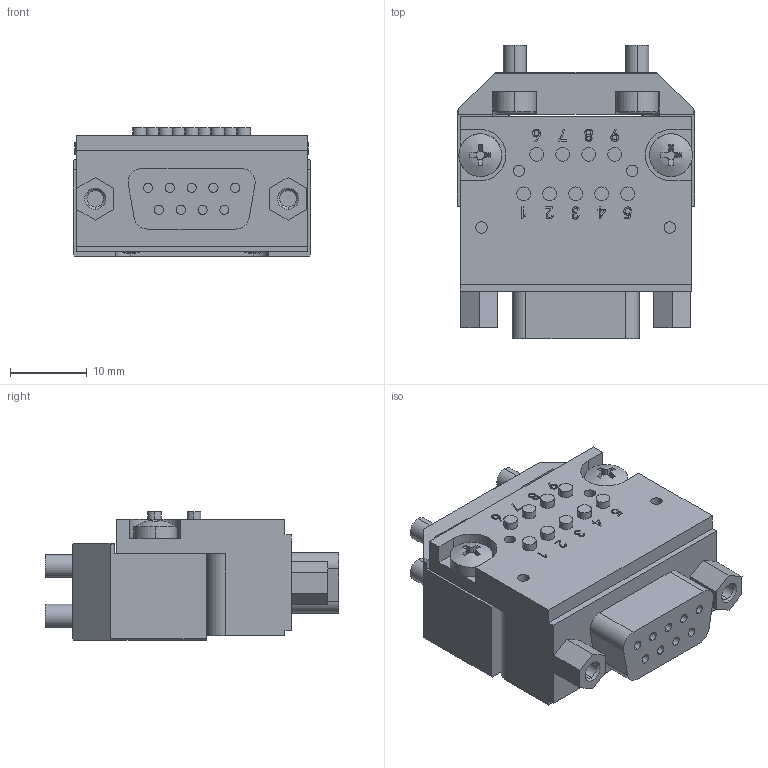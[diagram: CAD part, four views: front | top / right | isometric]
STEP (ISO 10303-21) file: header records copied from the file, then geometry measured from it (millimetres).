
FILE_DESCRIPTION (( 'STEP AP203' ), '1' );
FILE_NAME ('QCSM-9G2.STEP', '2024-02-22T02:22:18', ( '微软用户' ), ( '微软中国' ), 'SwSTEP 2.0', 'SolidWorks 2018', '' );
FILE_SCHEMA (( 'CONFIG_CONTROL_DESIGN' ));
Length unit declared in the file: millimetre
Products named in the file (1): QCSM-9G2
Bounding box: 31 x 38.3 x 16.8 mm (x, y, z)
Volume: 12832.4 mm3; surface area: 6531.8 mm2
Topology: 1 solids, 13 shells, 626 faces, 1487 edges, 948 vertices
Faces by surface type: plane 308, cylinder 180, cone 93, bspline 45
Entity records: 19201 total; most frequent: CARTESIAN_POINT 4976, ORIENTED_EDGE 2958, DIRECTION 2844, EDGE_CURVE 1479, AXIS2_PLACEMENT_3D 1016, VERTEX_POINT 948, LINE 812, VECTOR 812
